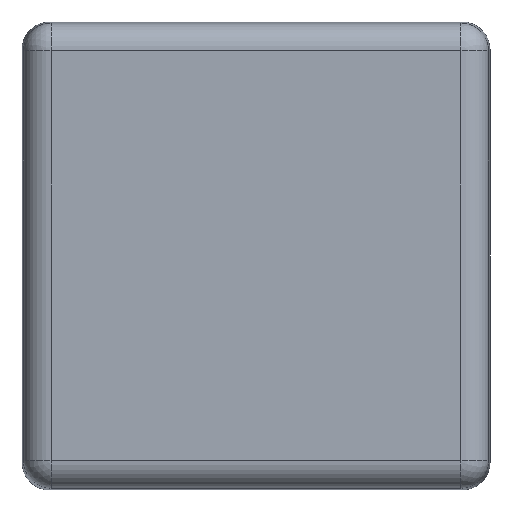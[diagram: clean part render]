
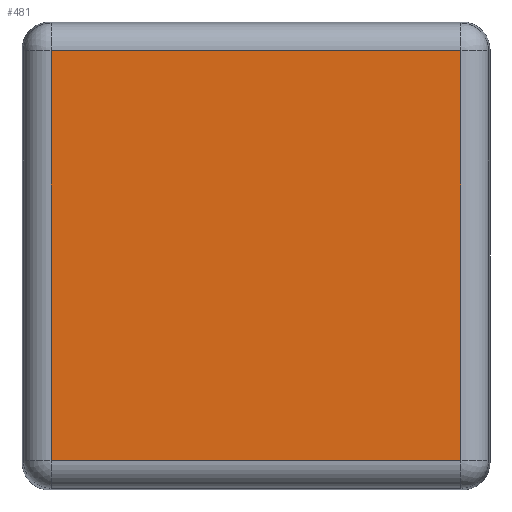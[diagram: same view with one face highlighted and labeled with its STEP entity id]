
A CAD part, top view. The second image highlights one B-rep face of the part: STEP entity #481.
In plain terms, the highlighted planar face has unit normal (0, 0, 1).
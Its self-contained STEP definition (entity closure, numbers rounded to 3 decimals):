
#17=LINE($,#803,#37);
#23=LINE($,#832,#43);
#25=LINE($,#835,#45);
#27=LINE($,#838,#47);
#37=VECTOR($,#663,22.329);
#43=VECTOR($,#695,22.329);
#45=VECTOR($,#699,22.329);
#47=VECTOR($,#703,22.329);
#68=PLANE($,#554);
#137=FACE_OUTER_BOUND($,#184,.T.);
#184=EDGE_LOOP($,(#398,#399,#400,#401));
#243=VERTEX_POINT($,#777);
#248=VERTEX_POINT($,#790);
#253=VERTEX_POINT($,#806);
#258=VERTEX_POINT($,#819);
#293=EDGE_CURVE($,#243,#248,#17,.T.);
#307=EDGE_CURVE($,#248,#258,#23,.T.);
#309=EDGE_CURVE($,#258,#253,#25,.T.);
#311=EDGE_CURVE($,#253,#243,#27,.T.);
#398=ORIENTED_EDGE($,*,*,#293,.F.);
#399=ORIENTED_EDGE($,*,*,#311,.F.);
#400=ORIENTED_EDGE($,*,*,#309,.F.);
#401=ORIENTED_EDGE($,*,*,#307,.F.);
#481=ADVANCED_FACE($,(#137),#68,.T.);
#554=AXIS2_PLACEMENT_3D($,#843,#710,#711);
#663=DIRECTION($,(0.,1.,0.));
#695=DIRECTION($,(1.,0.,0.));
#699=DIRECTION($,(0.,-1.,0.));
#703=DIRECTION($,(-1.,0.,0.));
#710=DIRECTION('center_axis',(0.,0.,1.));
#711=DIRECTION('ref_axis',(1.,0.,0.));
#777=CARTESIAN_POINT('',(1.586,1.586,11.3));
#790=CARTESIAN_POINT('',(1.586,23.914,11.3));
#803=CARTESIAN_POINT($,(1.586,6.375,11.3));
#806=CARTESIAN_POINT('',(23.914,1.586,11.3));
#819=CARTESIAN_POINT('',(23.914,23.914,11.3));
#832=CARTESIAN_POINT($,(6.375,23.914,11.3));
#835=CARTESIAN_POINT($,(23.914,19.125,11.3));
#838=CARTESIAN_POINT($,(19.125,1.586,11.3));
#843=CARTESIAN_POINT('Origin',(12.75,12.75,11.3));
